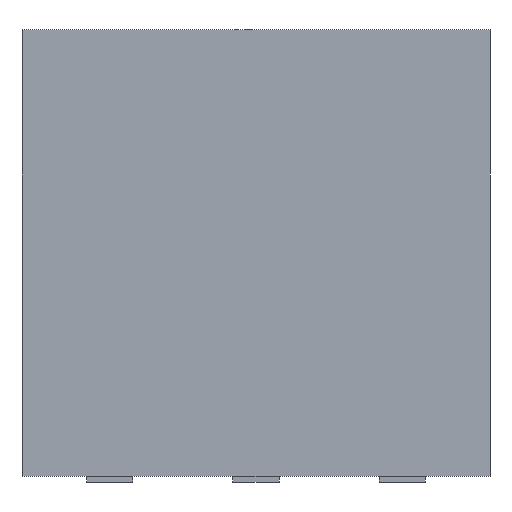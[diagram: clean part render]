
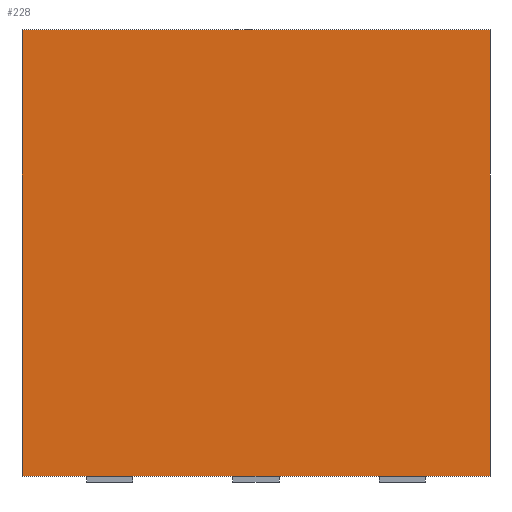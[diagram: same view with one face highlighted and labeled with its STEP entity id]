
A CAD part, front view. The second image highlights one B-rep face of the part: STEP entity #228.
In plain terms, the highlighted planar face has unit normal (0, -1, 0).
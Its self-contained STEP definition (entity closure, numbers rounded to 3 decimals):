
#59 = PLANE('',#60);
#60 = AXIS2_PLACEMENT_3D('',#61,#62,#63);
#61 = CARTESIAN_POINT('',(-4.06,-2.5,0.));
#62 = DIRECTION('',(-1.,0.,0.));
#63 = DIRECTION('',(0.,1.,0.));
#87 = PLANE('',#88);
#88 = AXIS2_PLACEMENT_3D('',#89,#90,#91);
#89 = CARTESIAN_POINT('',(0.,0.,7.75));
#90 = DIRECTION('',(0.,-0.,-1.));
#91 = DIRECTION('',(-1.,0.,0.));
#115 = PLANE('',#116);
#116 = AXIS2_PLACEMENT_3D('',#117,#118,#119);
#117 = CARTESIAN_POINT('',(4.06,2.5,0.));
#118 = DIRECTION('',(1.,0.,-0.));
#119 = DIRECTION('',(0.,-1.,0.));
#141 = PLANE('',#142);
#142 = AXIS2_PLACEMENT_3D('',#143,#144,#145);
#143 = CARTESIAN_POINT('',(0.,0.,0.));
#144 = DIRECTION('',(0.,-0.,-1.));
#145 = DIRECTION('',(-1.,0.,0.));
#158 = VERTEX_POINT('',#159);
#159 = CARTESIAN_POINT('',(4.06,-2.5,7.75));
#180 = EDGE_CURVE('',#181,#158,#183,.T.);
#181 = VERTEX_POINT('',#182);
#182 = CARTESIAN_POINT('',(4.06,-2.5,0.));
#183 = SURFACE_CURVE('',#184,(#188,#195),.PCURVE_S1.);
#184 = LINE('',#185,#186);
#185 = CARTESIAN_POINT('',(4.06,-2.5,0.));
#186 = VECTOR('',#187,1.);
#187 = DIRECTION('',(0.,0.,1.));
#188 = PCURVE('',#115,#189);
#189 = DEFINITIONAL_REPRESENTATION('',(#190),#194);
#190 = LINE('',#191,#192);
#191 = CARTESIAN_POINT('',(5.,0.));
#192 = VECTOR('',#193,1.);
#193 = DIRECTION('',(0.,-1.));
#194 = ( GEOMETRIC_REPRESENTATION_CONTEXT(2) 
PARAMETRIC_REPRESENTATION_CONTEXT() REPRESENTATION_CONTEXT('2D SPACE',''
  ) );
#195 = PCURVE('',#196,#201);
#196 = PLANE('',#197);
#197 = AXIS2_PLACEMENT_3D('',#198,#199,#200);
#198 = CARTESIAN_POINT('',(4.06,-2.5,0.));
#199 = DIRECTION('',(0.,-1.,0.));
#200 = DIRECTION('',(-1.,0.,0.));
#201 = DEFINITIONAL_REPRESENTATION('',(#202),#206);
#202 = LINE('',#203,#204);
#203 = CARTESIAN_POINT('',(0.,-0.));
#204 = VECTOR('',#205,1.);
#205 = DIRECTION('',(0.,-1.));
#206 = ( GEOMETRIC_REPRESENTATION_CONTEXT(2) 
PARAMETRIC_REPRESENTATION_CONTEXT() REPRESENTATION_CONTEXT('2D SPACE',''
  ) );
#228 = ADVANCED_FACE('',(#229),#196,.T.);
#229 = FACE_BOUND('',#230,.T.);
#230 = EDGE_LOOP('',(#231,#232,#255,#278));
#231 = ORIENTED_EDGE('',*,*,#180,.T.);
#232 = ORIENTED_EDGE('',*,*,#233,.T.);
#233 = EDGE_CURVE('',#158,#234,#236,.T.);
#234 = VERTEX_POINT('',#235);
#235 = CARTESIAN_POINT('',(-4.06,-2.5,7.75));
#236 = SURFACE_CURVE('',#237,(#241,#248),.PCURVE_S1.);
#237 = LINE('',#238,#239);
#238 = CARTESIAN_POINT('',(4.06,-2.5,7.75));
#239 = VECTOR('',#240,1.);
#240 = DIRECTION('',(-1.,0.,0.));
#241 = PCURVE('',#196,#242);
#242 = DEFINITIONAL_REPRESENTATION('',(#243),#247);
#243 = LINE('',#244,#245);
#244 = CARTESIAN_POINT('',(0.,-7.75));
#245 = VECTOR('',#246,1.);
#246 = DIRECTION('',(1.,0.));
#247 = ( GEOMETRIC_REPRESENTATION_CONTEXT(2) 
PARAMETRIC_REPRESENTATION_CONTEXT() REPRESENTATION_CONTEXT('2D SPACE',''
  ) );
#248 = PCURVE('',#87,#249);
#249 = DEFINITIONAL_REPRESENTATION('',(#250),#254);
#250 = LINE('',#251,#252);
#251 = CARTESIAN_POINT('',(-4.06,-2.5));
#252 = VECTOR('',#253,1.);
#253 = DIRECTION('',(1.,0.));
#254 = ( GEOMETRIC_REPRESENTATION_CONTEXT(2) 
PARAMETRIC_REPRESENTATION_CONTEXT() REPRESENTATION_CONTEXT('2D SPACE',''
  ) );
#255 = ORIENTED_EDGE('',*,*,#256,.F.);
#256 = EDGE_CURVE('',#257,#234,#259,.T.);
#257 = VERTEX_POINT('',#258);
#258 = CARTESIAN_POINT('',(-4.06,-2.5,0.));
#259 = SURFACE_CURVE('',#260,(#264,#271),.PCURVE_S1.);
#260 = LINE('',#261,#262);
#261 = CARTESIAN_POINT('',(-4.06,-2.5,0.));
#262 = VECTOR('',#263,1.);
#263 = DIRECTION('',(0.,0.,1.));
#264 = PCURVE('',#196,#265);
#265 = DEFINITIONAL_REPRESENTATION('',(#266),#270);
#266 = LINE('',#267,#268);
#267 = CARTESIAN_POINT('',(8.12,0.));
#268 = VECTOR('',#269,1.);
#269 = DIRECTION('',(0.,-1.));
#270 = ( GEOMETRIC_REPRESENTATION_CONTEXT(2) 
PARAMETRIC_REPRESENTATION_CONTEXT() REPRESENTATION_CONTEXT('2D SPACE',''
  ) );
#271 = PCURVE('',#59,#272);
#272 = DEFINITIONAL_REPRESENTATION('',(#273),#277);
#273 = LINE('',#274,#275);
#274 = CARTESIAN_POINT('',(0.,0.));
#275 = VECTOR('',#276,1.);
#276 = DIRECTION('',(0.,-1.));
#277 = ( GEOMETRIC_REPRESENTATION_CONTEXT(2) 
PARAMETRIC_REPRESENTATION_CONTEXT() REPRESENTATION_CONTEXT('2D SPACE',''
  ) );
#278 = ORIENTED_EDGE('',*,*,#279,.F.);
#279 = EDGE_CURVE('',#181,#257,#280,.T.);
#280 = SURFACE_CURVE('',#281,(#285,#292),.PCURVE_S1.);
#281 = LINE('',#282,#283);
#282 = CARTESIAN_POINT('',(4.06,-2.5,0.));
#283 = VECTOR('',#284,1.);
#284 = DIRECTION('',(-1.,0.,0.));
#285 = PCURVE('',#196,#286);
#286 = DEFINITIONAL_REPRESENTATION('',(#287),#291);
#287 = LINE('',#288,#289);
#288 = CARTESIAN_POINT('',(0.,-0.));
#289 = VECTOR('',#290,1.);
#290 = DIRECTION('',(1.,0.));
#291 = ( GEOMETRIC_REPRESENTATION_CONTEXT(2) 
PARAMETRIC_REPRESENTATION_CONTEXT() REPRESENTATION_CONTEXT('2D SPACE',''
  ) );
#292 = PCURVE('',#141,#293);
#293 = DEFINITIONAL_REPRESENTATION('',(#294),#298);
#294 = LINE('',#295,#296);
#295 = CARTESIAN_POINT('',(-4.06,-2.5));
#296 = VECTOR('',#297,1.);
#297 = DIRECTION('',(1.,0.));
#298 = ( GEOMETRIC_REPRESENTATION_CONTEXT(2) 
PARAMETRIC_REPRESENTATION_CONTEXT() REPRESENTATION_CONTEXT('2D SPACE',''
  ) );
